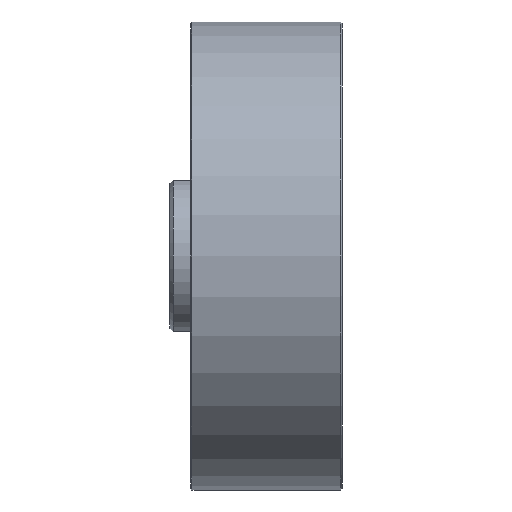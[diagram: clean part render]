
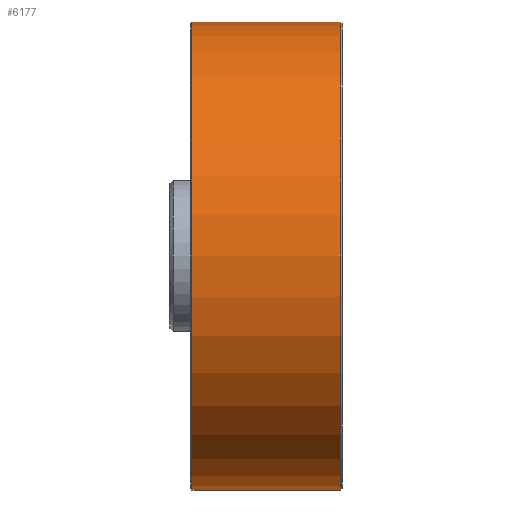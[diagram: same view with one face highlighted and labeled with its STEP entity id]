
A CAD part, left-side view. The second image highlights one B-rep face of the part: STEP entity #6177.
In plain terms, the highlighted cylindrical face has radius 34 mm (diameter 68 mm), a partial arc.
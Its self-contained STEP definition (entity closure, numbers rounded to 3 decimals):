
#489 = VERTEX_POINT ( 'NONE', #6972 ) ;
#521 = EDGE_CURVE ( 'NONE', #4507, #8436, #7067, .T. ) ;
#549 = VERTEX_POINT ( 'NONE', #1131 ) ;
#838 = LINE ( 'NONE', #5515, #4997 ) ;
#1131 = CARTESIAN_POINT ( 'NONE',  ( 0., 9.3, 34. ) ) ;
#1416 = ORIENTED_EDGE ( 'NONE', *, *, #7856, .T. ) ;
#1795 = DIRECTION ( 'NONE',  ( 0., 0., -1. ) ) ;
#1918 = DIRECTION ( 'NONE',  ( 0., -1., 0. ) ) ;
#2999 = AXIS2_PLACEMENT_3D ( 'NONE', #7496, #6757, #7412 ) ;
#3262 = DIRECTION ( 'NONE',  ( 0., 0., 1. ) ) ;
#3380 = EDGE_CURVE ( 'NONE', #4507, #489, #8404, .T. ) ;
#4007 = CARTESIAN_POINT ( 'NONE',  ( 0., 9.3, 0. ) ) ;
#4414 = DIRECTION ( 'NONE',  ( 0., 1., 0. ) ) ;
#4507 = VERTEX_POINT ( 'NONE', #5130 ) ;
#4583 = CARTESIAN_POINT ( 'NONE',  ( 0., 9.3, -34. ) ) ;
#4877 = FACE_OUTER_BOUND ( 'NONE', #6249, .T. ) ;
#4997 = VECTOR ( 'NONE', #6641, 1000. ) ;
#5130 = CARTESIAN_POINT ( 'NONE',  ( 0., -12.3, -34. ) ) ;
#5387 = CIRCLE ( 'NONE', #5519, 34. ) ;
#5515 = CARTESIAN_POINT ( 'NONE',  ( 0., 12.5, 34. ) ) ;
#5519 = AXIS2_PLACEMENT_3D ( 'NONE', #4007, #1918, #3262 ) ;
#6177 = ADVANCED_FACE ( 'NONE', ( #4877 ), #7456, .T. ) ;
#6249 = EDGE_LOOP ( 'NONE', ( #7261, #8420, #1416, #8609 ) ) ;
#6540 = EDGE_CURVE ( 'NONE', #549, #8436, #5387, .T. ) ;
#6641 = DIRECTION ( 'NONE',  ( 0., 1., 0. ) ) ;
#6757 = DIRECTION ( 'NONE',  ( 0., 1., 0. ) ) ;
#6972 = CARTESIAN_POINT ( 'NONE',  ( 0., -12.3, 34. ) ) ;
#7067 = LINE ( 'NONE', #7159, #7420 ) ;
#7159 = CARTESIAN_POINT ( 'NONE',  ( 0., 12.5, -34. ) ) ;
#7261 = ORIENTED_EDGE ( 'NONE', *, *, #521, .F. ) ;
#7412 = DIRECTION ( 'NONE',  ( 0., 0., 1. ) ) ;
#7420 = VECTOR ( 'NONE', #4414, 1000. ) ;
#7456 = CYLINDRICAL_SURFACE ( 'NONE', #2999, 34. ) ;
#7496 = CARTESIAN_POINT ( 'NONE',  ( 0., 12.5, 0. ) ) ;
#7571 = AXIS2_PLACEMENT_3D ( 'NONE', #7724, #7766, #1795 ) ;
#7724 = CARTESIAN_POINT ( 'NONE',  ( 0., -12.3, 0. ) ) ;
#7766 = DIRECTION ( 'NONE',  ( 0., 1., 0. ) ) ;
#7856 = EDGE_CURVE ( 'NONE', #489, #549, #838, .T. ) ;
#8404 = CIRCLE ( 'NONE', #7571, 34. ) ;
#8420 = ORIENTED_EDGE ( 'NONE', *, *, #3380, .T. ) ;
#8436 = VERTEX_POINT ( 'NONE', #4583 ) ;
#8609 = ORIENTED_EDGE ( 'NONE', *, *, #6540, .T. ) ;
